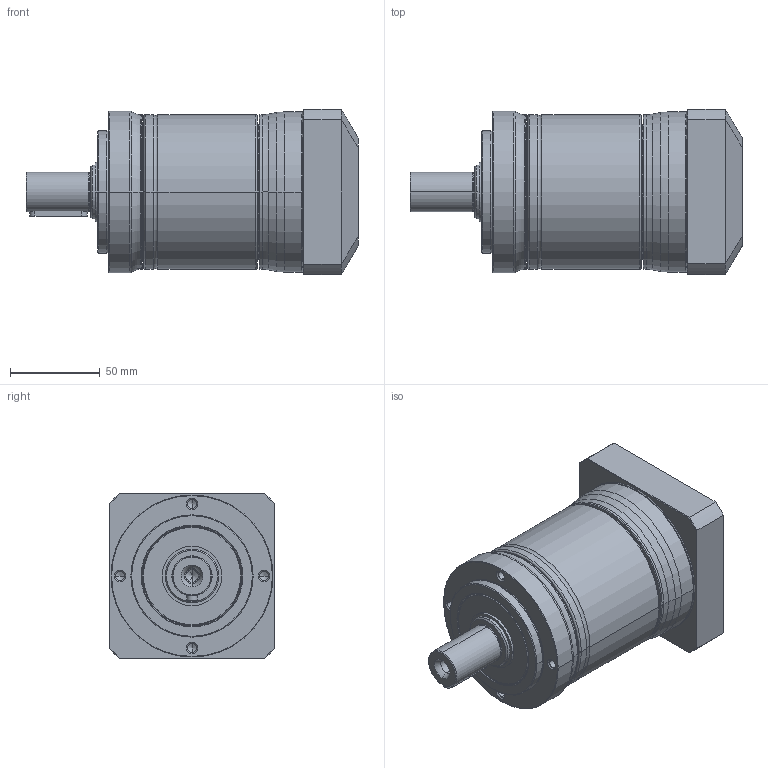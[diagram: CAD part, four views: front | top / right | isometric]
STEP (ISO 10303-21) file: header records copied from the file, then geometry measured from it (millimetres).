
FILE_DESCRIPTION((''),'2;1');
FILE_NAME('PE2-090_2ST_19-P0411400101_ASM','2017-06-02T',('d01943'),(''),'PRO/ENGINEER BY PARAMETRIC TECHNOLOGY CORPORATION, 2008410','PRO/ENGINEER BY PARAMETRIC TECHNOLOGY CORPORATION, 2008410','');
FILE_SCHEMA(('CONFIG_CONTROL_DESIGN'));
Length unit declared in the file: millimetre
Products named in the file (9): P1323310001; P0251300001; P1324300101; P0350301001; P0941301001; P0503400008; P0411400101; P1702500001; PE2-090_2ST_19-P0411400101_ASM
Assembly tree (8 placements, depth 2):
  PE2-090_2ST_19-P0411400101_ASM
    P1323310001
    P0251300001
    P1324300101
    P0350301001
    P0941301001
    P0503400008
    P0411400101
    P1702500001
Bounding box: 184.5 x 92 x 92 mm (x, y, z)
Volume: 628956.7 mm3; surface area: 148047 mm2
Topology: 8 solids, 8 shells, 472 faces, 1033 edges, 592 vertices
Faces by surface type: cone 138, cylinder 138, torus 100, plane 78, bspline 18
Entity records: 17664 total; most frequent: CARTESIAN_POINT 7089, DIRECTION 2413, ORIENTED_EDGE 2002, AXIS2_PLACEMENT_3D 1038, EDGE_CURVE 1001, VERTEX_POINT 592, CIRCLE 567, EDGE_LOOP 535
